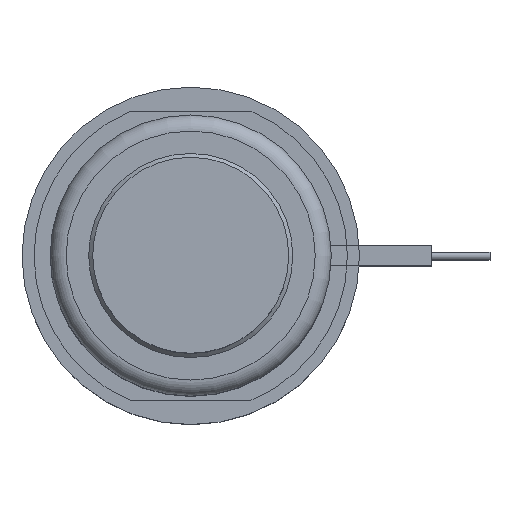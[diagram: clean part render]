
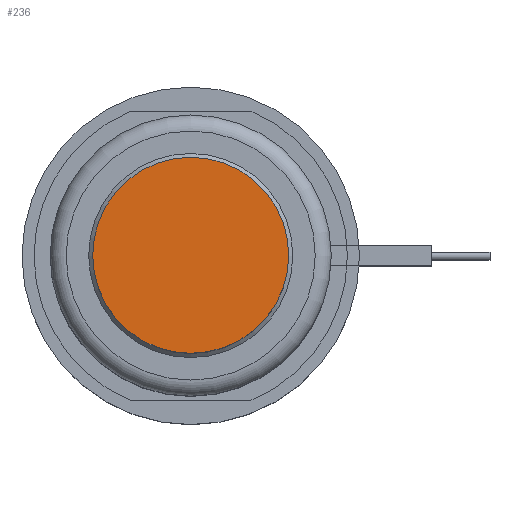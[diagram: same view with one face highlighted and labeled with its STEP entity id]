
A CAD part, top view. The second image highlights one B-rep face of the part: STEP entity #236.
In plain terms, the highlighted planar face has unit normal (0, 0, 1).
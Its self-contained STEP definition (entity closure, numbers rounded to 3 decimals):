
#236=ADVANCED_FACE('',(#357),#296,.F.);
#296=PLANE('',#1398);
#357=FACE_OUTER_BOUND('',#649,.T.);
#649=EDGE_LOOP('',(#917));
#917=ORIENTED_EDGE('',*,*,#1180,.F.);
#1045=VERTEX_POINT('',#2199);
#1180=EDGE_CURVE('',#1045,#1045,#1254,.T.);
#1254=CIRCLE('',#1397,12.2);
#1397=AXIS2_PLACEMENT_3D('',#2198,#1738,#1739);
#1398=AXIS2_PLACEMENT_3D('',#2200,#1740,#1741);
#1738=DIRECTION('',(0.,0.,-1.));
#1739=DIRECTION('',(-1.,0.,0.));
#1740=DIRECTION('',(0.,0.,-1.));
#1741=DIRECTION('',(-1.,0.,0.));
#2198=CARTESIAN_POINT('',(0.,0.,18.));
#2199=CARTESIAN_POINT('',(-12.2,0.,18.));
#2200=CARTESIAN_POINT('',(0.,0.,18.));
